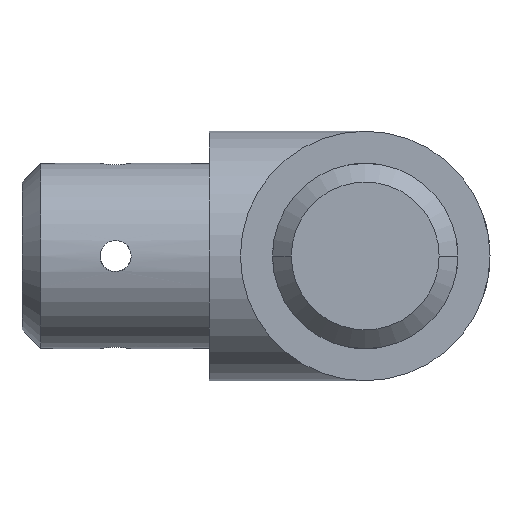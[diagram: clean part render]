
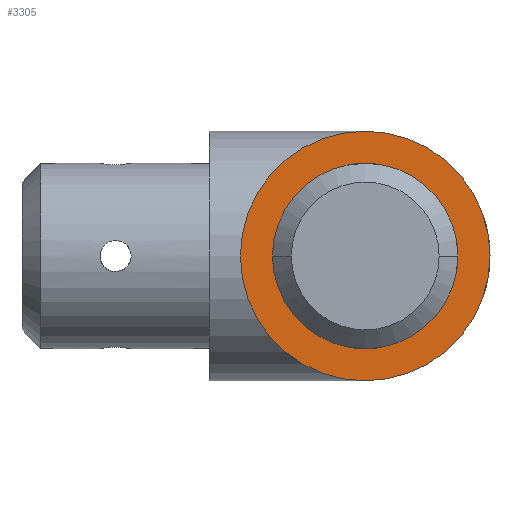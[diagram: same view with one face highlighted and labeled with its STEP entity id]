
A CAD part, left-side view. The second image highlights one B-rep face of the part: STEP entity #3305.
In plain terms, the highlighted planar face has unit normal (-1, 0, 0).
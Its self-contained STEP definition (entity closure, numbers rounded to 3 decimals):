
#4 = DIRECTION ( 'NONE',  ( 0., 1., 0. ) ) ;
#52 = AXIS2_PLACEMENT_3D ( 'NONE', #3401, #1693, #3360 ) ;
#560 = AXIS2_PLACEMENT_3D ( 'NONE', #2603, #901, #4 ) ;
#651 = VERTEX_POINT ( 'NONE', #3133 ) ;
#670 = EDGE_CURVE ( 'NONE', #1161, #1958, #2510, .T. ) ;
#803 = DIRECTION ( 'NONE',  ( 1., 0., 0. ) ) ;
#876 = FACE_OUTER_BOUND ( 'NONE', #2471, .T. ) ;
#901 = DIRECTION ( 'NONE',  ( 1., 0., 0. ) ) ;
#1045 = DIRECTION ( 'NONE',  ( 1., 0., 0. ) ) ;
#1161 = VERTEX_POINT ( 'NONE', #2402 ) ;
#1394 = VERTEX_POINT ( 'NONE', #1711 ) ;
#1461 = EDGE_CURVE ( 'NONE', #651, #1394, #3295, .T. ) ;
#1469 = CIRCLE ( 'NONE', #2873, 20. ) ;
#1678 = AXIS2_PLACEMENT_3D ( 'NONE', #3393, #803, #3688 ) ;
#1693 = DIRECTION ( 'NONE',  ( 1., 0., 0. ) ) ;
#1711 = CARTESIAN_POINT ( 'NONE',  ( -25., 14.85, 0. ) ) ;
#1773 = DIRECTION ( 'NONE',  ( 1., 0., 0. ) ) ;
#1810 = FACE_BOUND ( 'NONE', #3246, .T. ) ;
#1822 = ORIENTED_EDGE ( 'NONE', *, *, #3298, .T. ) ;
#1958 = VERTEX_POINT ( 'NONE', #2626 ) ;
#2092 = EDGE_CURVE ( 'NONE', #1958, #1161, #1469, .T. ) ;
#2119 = ORIENTED_EDGE ( 'NONE', *, *, #1461, .T. ) ;
#2402 = CARTESIAN_POINT ( 'NONE',  ( -25., 20., 0. ) ) ;
#2471 = EDGE_LOOP ( 'NONE', ( #3278, #3535 ) ) ;
#2510 = CIRCLE ( 'NONE', #3247, 20. ) ;
#2603 = CARTESIAN_POINT ( 'NONE',  ( -25., 0., 0. ) ) ;
#2626 = CARTESIAN_POINT ( 'NONE',  ( -25., -20., 0. ) ) ;
#2873 = AXIS2_PLACEMENT_3D ( 'NONE', #3328, #1045, #3045 ) ;
#2882 = DIRECTION ( 'NONE',  ( 0., 1., 0. ) ) ;
#3009 = CIRCLE ( 'NONE', #52, 14.85 ) ;
#3045 = DIRECTION ( 'NONE',  ( 0., 1., 0. ) ) ;
#3133 = CARTESIAN_POINT ( 'NONE',  ( -25., -14.85, 0. ) ) ;
#3246 = EDGE_LOOP ( 'NONE', ( #1822, #2119 ) ) ;
#3247 = AXIS2_PLACEMENT_3D ( 'NONE', #3497, #1773, #2882 ) ;
#3278 = ORIENTED_EDGE ( 'NONE', *, *, #670, .F. ) ;
#3295 = CIRCLE ( 'NONE', #560, 14.85 ) ;
#3298 = EDGE_CURVE ( 'NONE', #1394, #651, #3009, .T. ) ;
#3305 = ADVANCED_FACE ( 'NONE', ( #876, #1810 ), #3660, .F. ) ;
#3328 = CARTESIAN_POINT ( 'NONE',  ( -25., 0., 0. ) ) ;
#3360 = DIRECTION ( 'NONE',  ( 0., 1., 0. ) ) ;
#3393 = CARTESIAN_POINT ( 'NONE',  ( -25., -14.85, 0. ) ) ;
#3401 = CARTESIAN_POINT ( 'NONE',  ( -25., 0., 0. ) ) ;
#3497 = CARTESIAN_POINT ( 'NONE',  ( -25., 0., 0. ) ) ;
#3535 = ORIENTED_EDGE ( 'NONE', *, *, #2092, .F. ) ;
#3660 = PLANE ( 'NONE',  #1678 ) ;
#3688 = DIRECTION ( 'NONE',  ( 0., 1., 0. ) ) ;
